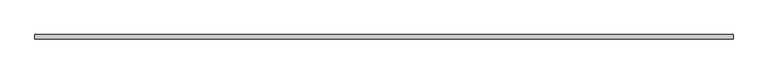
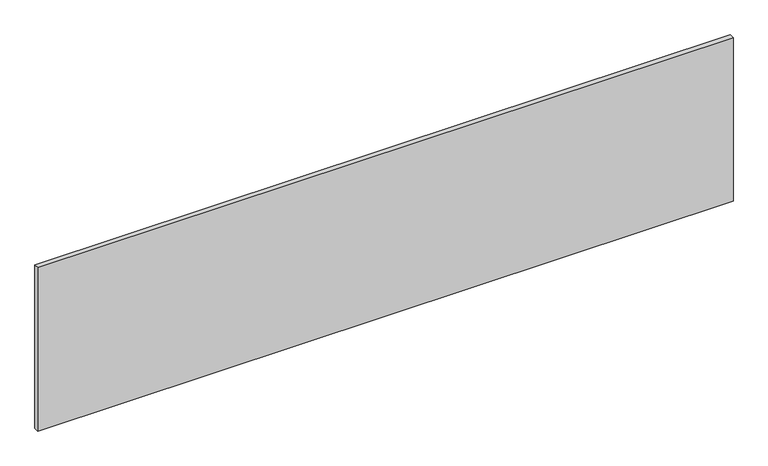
"""IFC4 building model written with IfcOpenShell, lengths in millimetres: proxy geometry, 38 Series Cedar Texture Soffit - Cut-To-Width (Strand) - 11.94 : 38 Series Cedar Texture Soffit – Cut-To-Width (Strand) - 11.94."""

from ifc_helpers import new_model, si_unit, frame, origin, place, context, project, spatial, polyline, outline, extrude, source, transform, mapped, element, save


def generic_models_ff26d8ec(model_context):
    return source(origin(), model_context, "Body", "SweptSolid", [
        extrude(outline(polyline([(1219.2, -8.001), (0.0, -8.001), (0.0, 0.0), (1219.2, 0.0), (1219.2, -8.001)])), frame((0.0, 0.0, -303.276), z_axis=(0.0, 0.0, 1.0), x_axis=(1.0, 0.0, 0.0)), (0.0, 0.0, 1.0), 303.276),
    ])


if __name__ == "__main__":
    model = new_model("IFC4")
    model_context = context("Model", 3, world=origin())
    ifc_project = project(units=[si_unit("LENGTHUNIT", "METRE", prefix="MILLI")], contexts=[model_context])
    site = spatial("IfcSite", under=ifc_project)
    building = spatial("IfcBuilding", under=site)
    placement = place(None, origin())
    generic_models_shape = generic_models_ff26d8ec(model_context)
    element("IfcBuildingElementProxy", 1, Name="38 Series Cedar Texture Soffit - Cut-To-Width (Strand) - 11.94 : 38 Series Cedar Texture Soffit – Cut-To-Width (Strand) - 11.94", ObjectType="38 Series Cedar Texture Soffit - Cut-To-Width (Strand) - 11.94 : 38 Series Cedar Texture Soffit – Cut-To-Width (Strand) - 11.94", at=placement, inside=building, context=model_context, shape_type="MappedRepresentation", body=[
        mapped(generic_models_shape, transform((0.0, 0.0, 0.0), x_axis=(1.0, 0.0, 0.0), y_axis=(0.0, 1.0, 0.0), z_axis=(0.0, 0.0, 1.0))),
    ])
    save(model, "model.ifc")
